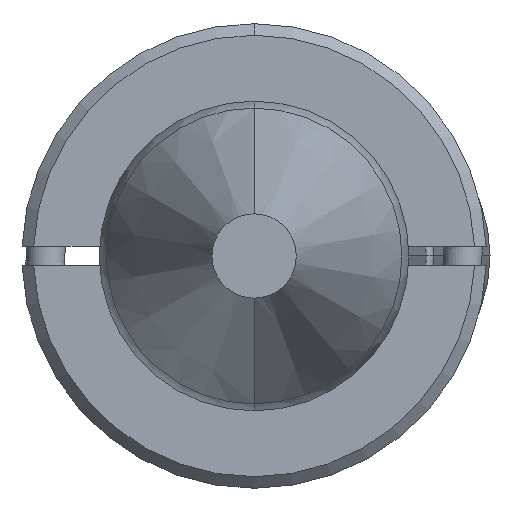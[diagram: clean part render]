
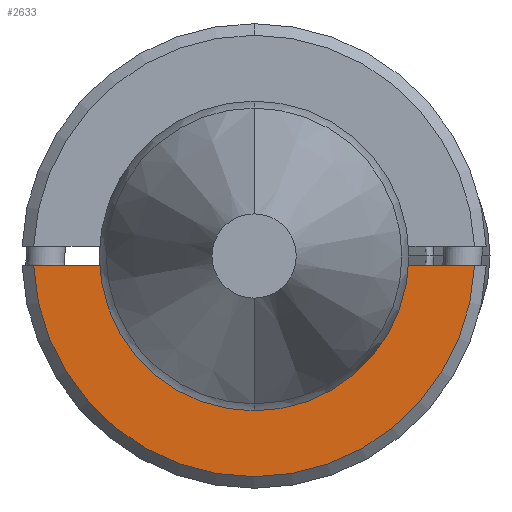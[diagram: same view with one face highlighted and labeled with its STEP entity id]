
A CAD part, front view. The second image highlights one B-rep face of the part: STEP entity #2633.
In plain terms, the highlighted planar face has unit normal (0, -1, 0).
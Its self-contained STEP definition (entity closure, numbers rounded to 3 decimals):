
#80 = CARTESIAN_POINT ( 'NONE',  ( -6., -6., -0.25 ) ) ;
#244 = CARTESIAN_POINT ( 'NONE',  ( -5.695, -6., -0.25 ) ) ;
#302 = EDGE_CURVE ( 'NONE', #2392, #2591, #1863, .T. ) ;
#337 = AXIS2_PLACEMENT_3D ( 'NONE', #3154, #1912, #1608 ) ;
#370 = DIRECTION ( 'NONE',  ( 0., -1., 0. ) ) ;
#485 = EDGE_CURVE ( 'NONE', #1131, #1636, #3099, .T. ) ;
#530 = CARTESIAN_POINT ( 'NONE',  ( -6., -6., -0.25 ) ) ;
#717 = AXIS2_PLACEMENT_3D ( 'NONE', #2781, #880, #2195 ) ;
#726 = CARTESIAN_POINT ( 'NONE',  ( 5.695, -6., -0.25 ) ) ;
#817 = LINE ( 'NONE', #80, #3727 ) ;
#848 = DIRECTION ( 'NONE',  ( 1., 0., 0. ) ) ;
#880 = DIRECTION ( 'NONE',  ( 0., 1., 0. ) ) ;
#1131 = VERTEX_POINT ( 'NONE', #1755 ) ;
#1136 = EDGE_CURVE ( 'NONE', #2392, #1636, #817, .T. ) ;
#1197 = CARTESIAN_POINT ( 'NONE',  ( 3.19, -6., -0.25 ) ) ;
#1347 = EDGE_CURVE ( 'NONE', #1572, #1131, #2426, .T. ) ;
#1354 = ORIENTED_EDGE ( 'NONE', *, *, #3663, .F. ) ;
#1523 = DIRECTION ( 'NONE',  ( 0., 1., 0. ) ) ;
#1572 = VERTEX_POINT ( 'NONE', #1197 ) ;
#1608 = DIRECTION ( 'NONE',  ( 0., 0., -1. ) ) ;
#1636 = VERTEX_POINT ( 'NONE', #2101 ) ;
#1755 = CARTESIAN_POINT ( 'NONE',  ( 0., -6., -3.2 ) ) ;
#1792 = ORIENTED_EDGE ( 'NONE', *, *, #302, .T. ) ;
#1823 = DIRECTION ( 'NONE',  ( 0., 0., -1. ) ) ;
#1863 = CIRCLE ( 'NONE', #337, 5.7 ) ;
#1912 = DIRECTION ( 'NONE',  ( 0., -1., 0. ) ) ;
#1960 = FACE_OUTER_BOUND ( 'NONE', #3813, .T. ) ;
#2028 = DIRECTION ( 'NONE',  ( 1., 0., 0. ) ) ;
#2101 = CARTESIAN_POINT ( 'NONE',  ( -3.19, -6., -0.25 ) ) ;
#2195 = DIRECTION ( 'NONE',  ( 0., 0., -1. ) ) ;
#2392 = VERTEX_POINT ( 'NONE', #244 ) ;
#2426 = CIRCLE ( 'NONE', #717, 3.2 ) ;
#2431 = ORIENTED_EDGE ( 'NONE', *, *, #1347, .T. ) ;
#2513 = LINE ( 'NONE', #530, #3310 ) ;
#2521 = AXIS2_PLACEMENT_3D ( 'NONE', #3768, #1523, #1823 ) ;
#2590 = DIRECTION ( 'NONE',  ( 0., 0., -1. ) ) ;
#2591 = VERTEX_POINT ( 'NONE', #726 ) ;
#2633 = ADVANCED_FACE ( 'NONE', ( #1960 ), #3215, .T. ) ;
#2698 = ORIENTED_EDGE ( 'NONE', *, *, #1136, .F. ) ;
#2781 = CARTESIAN_POINT ( 'NONE',  ( 0., -6., 0. ) ) ;
#2789 = AXIS2_PLACEMENT_3D ( 'NONE', #3201, #370, #2590 ) ;
#3099 = CIRCLE ( 'NONE', #2521, 3.2 ) ;
#3154 = CARTESIAN_POINT ( 'NONE',  ( 0., -6., 0. ) ) ;
#3201 = CARTESIAN_POINT ( 'NONE',  ( -6., -6., 0. ) ) ;
#3215 = PLANE ( 'NONE',  #2789 ) ;
#3310 = VECTOR ( 'NONE', #848, 1000. ) ;
#3528 = ORIENTED_EDGE ( 'NONE', *, *, #485, .T. ) ;
#3663 = EDGE_CURVE ( 'NONE', #1572, #2591, #2513, .T. ) ;
#3727 = VECTOR ( 'NONE', #2028, 1000. ) ;
#3768 = CARTESIAN_POINT ( 'NONE',  ( 0., -6., 0. ) ) ;
#3813 = EDGE_LOOP ( 'NONE', ( #2698, #1792, #1354, #2431, #3528 ) ) ;
